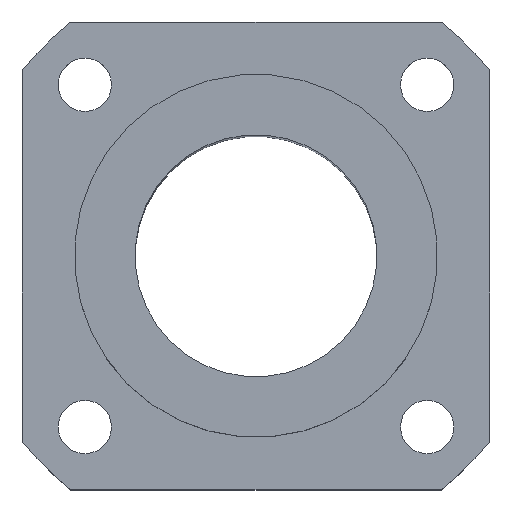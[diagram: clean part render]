
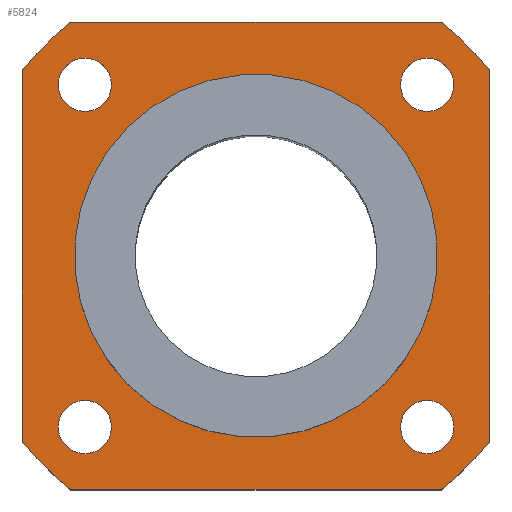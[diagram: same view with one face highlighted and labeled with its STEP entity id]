
A CAD part, top view. The second image highlights one B-rep face of the part: STEP entity #5824.
In plain terms, the highlighted planar face has unit normal (0, 0, 1).
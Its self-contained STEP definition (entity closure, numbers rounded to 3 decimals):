
#111=CIRCLE('',#6187,37.);
#112=CIRCLE('',#6189,37.);
#113=CIRCLE('',#6191,37.);
#114=CIRCLE('',#6193,37.);
#115=CIRCLE('',#6195,3.3);
#116=CIRCLE('',#6196,3.3);
#117=CIRCLE('',#6197,3.3);
#118=CIRCLE('',#6198,3.3);
#119=CIRCLE('',#6199,22.5);
#537=ORIENTED_EDGE('',*,*,#2215,.F.);
#538=ORIENTED_EDGE('',*,*,#2216,.F.);
#539=ORIENTED_EDGE('',*,*,#2217,.F.);
#540=ORIENTED_EDGE('',*,*,#2218,.F.);
#541=ORIENTED_EDGE('',*,*,#2219,.T.);
#542=ORIENTED_EDGE('',*,*,#2207,.T.);
#543=ORIENTED_EDGE('',*,*,#2220,.T.);
#544=ORIENTED_EDGE('',*,*,#2203,.T.);
#545=ORIENTED_EDGE('',*,*,#2221,.T.);
#546=ORIENTED_EDGE('',*,*,#2213,.T.);
#547=ORIENTED_EDGE('',*,*,#2222,.T.);
#548=ORIENTED_EDGE('',*,*,#2210,.T.);
#549=ORIENTED_EDGE('',*,*,#2223,.T.);
#2203=EDGE_CURVE('',#3044,#3045,#111,.T.);
#2207=EDGE_CURVE('',#3047,#3046,#112,.T.);
#2210=EDGE_CURVE('',#3049,#3048,#113,.T.);
#2213=EDGE_CURVE('',#3051,#3050,#114,.T.);
#2215=EDGE_CURVE('',#3052,#3052,#115,.T.);
#2216=EDGE_CURVE('',#3053,#3053,#116,.T.);
#2217=EDGE_CURVE('',#3054,#3054,#117,.T.);
#2218=EDGE_CURVE('',#3055,#3055,#118,.T.);
#2219=EDGE_CURVE('',#3056,#3056,#119,.F.);
#2220=EDGE_CURVE('',#3046,#3044,#3560,.T.);
#2221=EDGE_CURVE('',#3045,#3051,#3561,.T.);
#2222=EDGE_CURVE('',#3050,#3049,#3562,.T.);
#2223=EDGE_CURVE('',#3048,#3047,#3563,.T.);
#3044=VERTEX_POINT('',#9222);
#3045=VERTEX_POINT('',#9223);
#3046=VERTEX_POINT('',#9228);
#3047=VERTEX_POINT('',#9230);
#3048=VERTEX_POINT('',#9234);
#3049=VERTEX_POINT('',#9236);
#3050=VERTEX_POINT('',#9240);
#3051=VERTEX_POINT('',#9242);
#3052=VERTEX_POINT('',#9246);
#3053=VERTEX_POINT('',#9248);
#3054=VERTEX_POINT('',#9250);
#3055=VERTEX_POINT('',#9252);
#3056=VERTEX_POINT('',#9254);
#3560=LINE('',#9255,#4241);
#3561=LINE('',#9256,#4242);
#3562=LINE('',#9257,#4243);
#3563=LINE('',#9258,#4244);
#4241=VECTOR('',#6748,1000.);
#4242=VECTOR('',#6749,1000.);
#4243=VECTOR('',#6750,1000.);
#4244=VECTOR('',#6751,1000.);
#4764=EDGE_LOOP('',(#537));
#4765=EDGE_LOOP('',(#538));
#4766=EDGE_LOOP('',(#539));
#4767=EDGE_LOOP('',(#540));
#4768=EDGE_LOOP('',(#541));
#4769=EDGE_LOOP('',(#542,#543,#544,#545,#546,#547,#548,#549));
#5185=FACE_BOUND('',#4764,.T.);
#5186=FACE_BOUND('',#4765,.T.);
#5187=FACE_BOUND('',#4766,.T.);
#5188=FACE_BOUND('',#4767,.T.);
#5189=FACE_BOUND('',#4768,.T.);
#5190=FACE_BOUND('',#4769,.T.);
#5558=PLANE('',#6194);
#5824=ADVANCED_FACE('',(#5185,#5186,#5187,#5188,#5189,#5190),#5558,.T.);
#6187=AXIS2_PLACEMENT_3D('',#9221,#6714,#6715);
#6189=AXIS2_PLACEMENT_3D('',#9229,#6721,#6722);
#6191=AXIS2_PLACEMENT_3D('',#9235,#6727,#6728);
#6193=AXIS2_PLACEMENT_3D('',#9241,#6733,#6734);
#6194=AXIS2_PLACEMENT_3D('',#9244,#6736,#6737);
#6195=AXIS2_PLACEMENT_3D('',#9245,#6738,#6739);
#6196=AXIS2_PLACEMENT_3D('',#9247,#6740,#6741);
#6197=AXIS2_PLACEMENT_3D('',#9249,#6742,#6743);
#6198=AXIS2_PLACEMENT_3D('',#9251,#6744,#6745);
#6199=AXIS2_PLACEMENT_3D('',#9253,#6746,#6747);
#6714=DIRECTION('',(0.,0.,1.));
#6715=DIRECTION('',(0.707,-0.707,0.));
#6721=DIRECTION('',(0.,0.,1.));
#6722=DIRECTION('',(0.707,-0.707,0.));
#6727=DIRECTION('',(0.,0.,1.));
#6728=DIRECTION('',(0.707,-0.707,0.));
#6733=DIRECTION('',(0.,0.,1.));
#6734=DIRECTION('',(0.707,-0.707,0.));
#6736=DIRECTION('',(0.,0.,1.));
#6737=DIRECTION('',(0.707,-0.707,0.));
#6738=DIRECTION('',(0.,0.,1.));
#6739=DIRECTION('',(0.707,-0.707,0.));
#6740=DIRECTION('',(0.,0.,1.));
#6741=DIRECTION('',(0.707,-0.707,0.));
#6742=DIRECTION('',(0.,0.,1.));
#6743=DIRECTION('',(0.707,-0.707,0.));
#6744=DIRECTION('',(0.,0.,1.));
#6745=DIRECTION('',(0.707,-0.707,0.));
#6746=DIRECTION('',(0.,0.,1.));
#6747=DIRECTION('',(0.707,-0.707,0.));
#6748=DIRECTION('',(0.,-1.,0.));
#6749=DIRECTION('',(1.,0.,0.));
#6750=DIRECTION('',(0.,1.,0.));
#6751=DIRECTION('',(-1.,0.,0.));
#9221=CARTESIAN_POINT('',(0.,0.,0.));
#9222=CARTESIAN_POINT('',(-29.,-22.978,0.));
#9223=CARTESIAN_POINT('',(-22.978,-29.,0.));
#9228=CARTESIAN_POINT('',(-29.,22.978,0.));
#9229=CARTESIAN_POINT('',(0.,0.,0.));
#9230=CARTESIAN_POINT('',(-22.978,29.,0.));
#9234=CARTESIAN_POINT('',(22.978,29.,0.));
#9235=CARTESIAN_POINT('',(0.,0.,0.));
#9236=CARTESIAN_POINT('',(29.,22.978,0.));
#9240=CARTESIAN_POINT('',(29.,-22.978,0.));
#9241=CARTESIAN_POINT('',(0.,0.,0.));
#9242=CARTESIAN_POINT('',(22.978,-29.,0.));
#9244=CARTESIAN_POINT('',(0.,0.,0.));
#9245=CARTESIAN_POINT('',(21.213,21.213,0.));
#9246=CARTESIAN_POINT('',(23.547,18.88,0.));
#9247=CARTESIAN_POINT('',(-21.213,21.213,0.));
#9248=CARTESIAN_POINT('',(-18.88,18.88,0.));
#9249=CARTESIAN_POINT('',(-21.213,-21.213,0.));
#9250=CARTESIAN_POINT('',(-18.88,-23.547,0.));
#9251=CARTESIAN_POINT('',(21.213,-21.213,0.));
#9252=CARTESIAN_POINT('',(23.547,-23.547,0.));
#9253=CARTESIAN_POINT('',(0.,0.,0.));
#9254=CARTESIAN_POINT('',(15.91,-15.91,0.));
#9255=CARTESIAN_POINT('',(-29.,0.,0.));
#9256=CARTESIAN_POINT('',(0.,-29.,0.));
#9257=CARTESIAN_POINT('',(29.,0.,0.));
#9258=CARTESIAN_POINT('',(0.,29.,0.));
